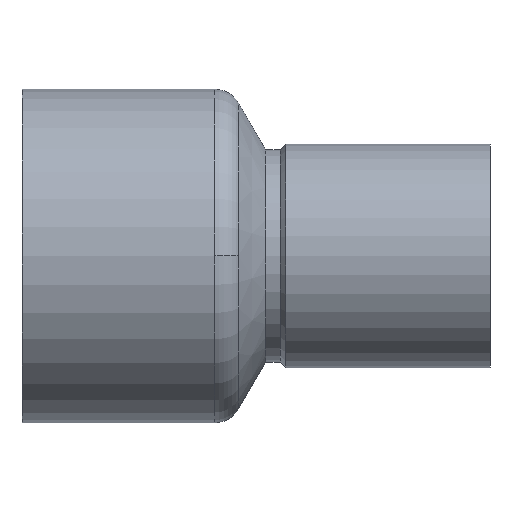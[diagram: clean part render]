
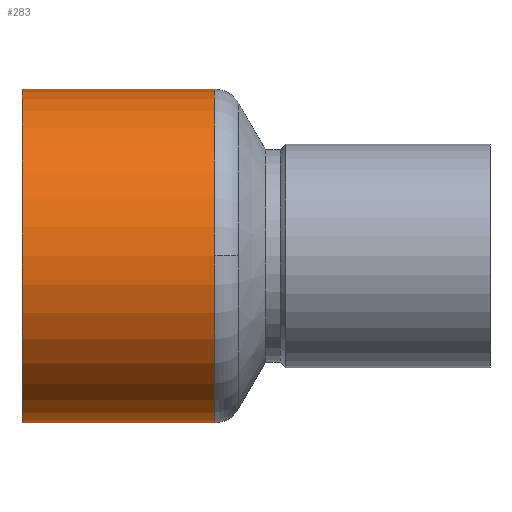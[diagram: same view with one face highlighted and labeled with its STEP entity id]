
A CAD part, top view. The second image highlights one B-rep face of the part: STEP entity #283.
In plain terms, the highlighted cylindrical face has radius 6.055 mm (diameter 12.11 mm), a partial arc.
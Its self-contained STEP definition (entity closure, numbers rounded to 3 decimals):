
#207=CARTESIAN_POINT('',(7.,6.055,0.0));
#208=VERTEX_POINT('',#207);
#216=CARTESIAN_POINT('',(7.0,0.,6.055));
#217=VERTEX_POINT('',#216);
#218=CARTESIAN_POINT('',(7.,0.0,0.0));
#219=DIRECTION('',(1.0,0.0,0.0));
#220=DIRECTION('',(0.0,1.0,0.0));
#221=AXIS2_PLACEMENT_3D('',#218,#219,#220);
#222=CIRCLE('',#221,6.055);
#223=EDGE_CURVE('',#208,#217,#222,.T.);
#243=CARTESIAN_POINT('',(3.5,0.0,0.0));
#244=DIRECTION('',(1.0,0.0,0.0));
#245=DIRECTION('',(0.0,1.0,0.0));
#246=AXIS2_PLACEMENT_3D('',#243,#244,#245);
#247=CYLINDRICAL_SURFACE('',#246,6.055);
#248=CARTESIAN_POINT('',(0.0,6.055,0.0));
#249=VERTEX_POINT('',#248);
#250=CARTESIAN_POINT('',(0.0,6.055,0.0));
#251=DIRECTION('',(1.0,0.0,0.0));
#252=VECTOR('',#251,7.);
#253=LINE('',#250,#252);
#254=EDGE_CURVE('',#249,#208,#253,.T.);
#255=ORIENTED_EDGE('',*,*,#254,.F.);
#256=CARTESIAN_POINT('',(0.0,-6.055,0.));
#257=VERTEX_POINT('',#256);
#258=CARTESIAN_POINT('',(0.0,0.0,0.0));
#259=DIRECTION('',(1.0,0.0,0.0));
#260=DIRECTION('',(0.0,1.0,0.0));
#261=AXIS2_PLACEMENT_3D('',#258,#259,#260);
#262=CIRCLE('',#261,6.055);
#263=EDGE_CURVE('',#249,#257,#262,.T.);
#264=ORIENTED_EDGE('',*,*,#263,.T.);
#265=CARTESIAN_POINT('',(7.,-6.055,0.));
#266=VERTEX_POINT('',#265);
#267=CARTESIAN_POINT('',(7.,-6.055,0.));
#268=DIRECTION('',(-1.0,0.0,0.0));
#269=VECTOR('',#268,7.);
#270=LINE('',#267,#269);
#271=EDGE_CURVE('',#266,#257,#270,.T.);
#272=ORIENTED_EDGE('',*,*,#271,.F.);
#273=CARTESIAN_POINT('',(7.,0.0,0.0));
#274=DIRECTION('',(1.0,0.0,0.0));
#275=DIRECTION('',(0.0,1.0,0.0));
#276=AXIS2_PLACEMENT_3D('',#273,#274,#275);
#277=CIRCLE('',#276,6.055);
#278=EDGE_CURVE('',#217,#266,#277,.T.);
#279=ORIENTED_EDGE('',*,*,#278,.F.);
#280=ORIENTED_EDGE('',*,*,#223,.F.);
#281=EDGE_LOOP('',(#255,#264,#272,#279,#280));
#282=FACE_OUTER_BOUND('',#281,.T.);
#283=ADVANCED_FACE('',(#282),#247,.T.);
